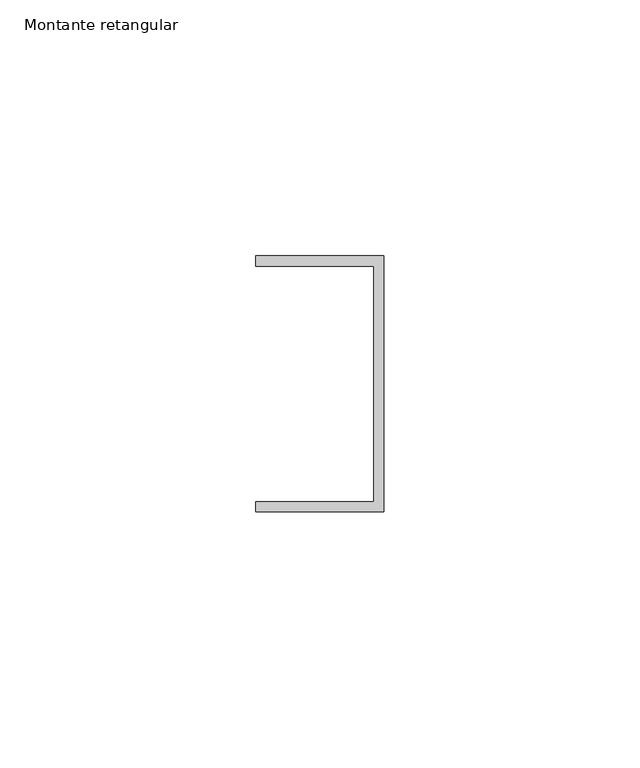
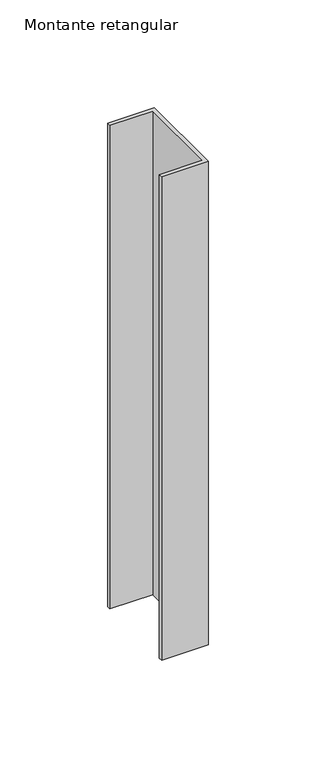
"""IFC4 building model written with IfcOpenShell, lengths in millimetres: member geometry, Montante retangular : FDE_MontanteVenezianaIndustrial_BordaOpção1_Ref50 (Alumínio Anodizado)."""

from ifc_helpers import new_model, si_unit, frame, origin, place, context, project, spatial, polyline, outline, extrude, source, transform, mapped, element, save


def montante_retangular_d2e0df8b(model_context):
    return source(origin(), model_context, "Body", "SweptSolid", [
        extrude(outline(polyline([(0.0, 25.0), (0.0, -25.0), (-25.0, -25.0), (-25.0, -23.0), (-2.0, -23.0), (-2.0, 23.0), (-25.0, 23.0), (-25.0, 25.0), (0.0, 25.0)])), frame((0.0, 0.0, -274.0), z_axis=(0.0, 0.0, 1.0), x_axis=(1.0, 0.0, 0.0)), (0.0, 0.0, 1.0), 274.0),
    ])


if __name__ == "__main__":
    model = new_model("IFC4")
    model_context = context("Model", 3, world=origin())
    ifc_project = project(units=[si_unit("LENGTHUNIT", "METRE", prefix="MILLI")], contexts=[model_context])
    site = spatial("IfcSite", under=ifc_project)
    building = spatial("IfcBuilding", under=site)
    placement = place(None, origin())
    montante_retangular_shape = montante_retangular_d2e0df8b(model_context)
    element("IfcMember", 1, ObjectType="Montante retangular : FDE_MontanteVenezianaIndustrial_BordaOpção1_Ref50 (Alumínio Anodizado)", at=placement, inside=building, context=model_context, shape_type="MappedRepresentation", body=[
        mapped(montante_retangular_shape, transform((0.0, 0.0, 0.0), x_axis=(1.0, 0.0, 0.0), y_axis=(0.0, 1.0, 0.0), z_axis=(0.0, 0.0, 1.0))),
    ])
    save(model, "model.ifc")
